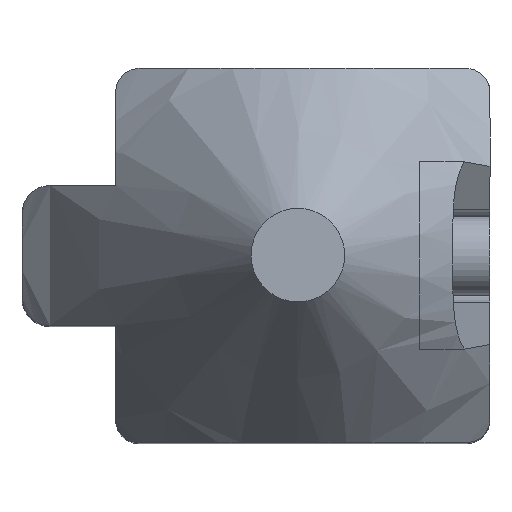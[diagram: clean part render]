
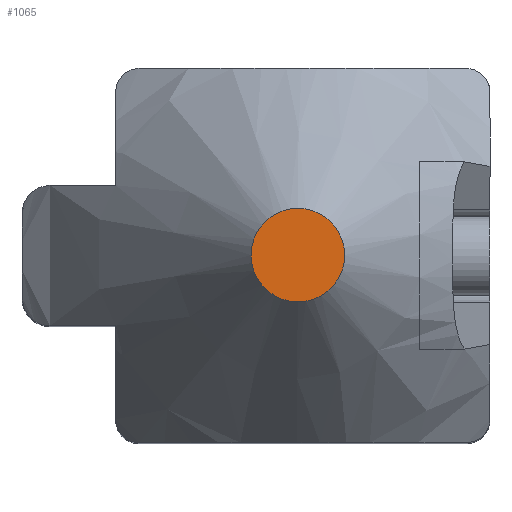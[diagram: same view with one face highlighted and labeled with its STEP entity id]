
A CAD part, top view. The second image highlights one B-rep face of the part: STEP entity #1065.
In plain terms, the highlighted planar face has unit normal (0, 0, 1).
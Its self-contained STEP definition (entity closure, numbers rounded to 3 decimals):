
#56 = DIRECTION ( 'NONE',  ( 1., 0., 0. ) ) ;
#267 = EDGE_LOOP ( 'NONE', ( #418 ) ) ;
#289 = CARTESIAN_POINT ( 'NONE',  ( 0., -0.491, 300. ) ) ;
#418 = ORIENTED_EDGE ( 'NONE', *, *, #1015, .T. ) ;
#546 = AXIS2_PLACEMENT_3D ( 'NONE', #1517, #779, #56 ) ;
#759 = VERTEX_POINT ( 'NONE', #1156 ) ;
#770 = DIRECTION ( 'NONE',  ( 0., -1., 0. ) ) ;
#779 = DIRECTION ( 'NONE',  ( 0., 0., 1. ) ) ;
#986 = AXIS2_PLACEMENT_3D ( 'NONE', #289, #1148, #770 ) ;
#1015 = EDGE_CURVE ( 'NONE', #759, #759, #1560, .T. ) ;
#1065 = ADVANCED_FACE ( 'NONE', ( #1225 ), #1137, .T. ) ;
#1137 = PLANE ( 'NONE',  #546 ) ;
#1148 = DIRECTION ( 'NONE',  ( 0., 0., 1. ) ) ;
#1156 = CARTESIAN_POINT ( 'NONE',  ( 0., -1.491, 300. ) ) ;
#1225 = FACE_OUTER_BOUND ( 'NONE', #267, .T. ) ;
#1517 = CARTESIAN_POINT ( 'NONE',  ( 0., 0., 300. ) ) ;
#1560 = CIRCLE ( 'NONE', #986, 1. ) ;
